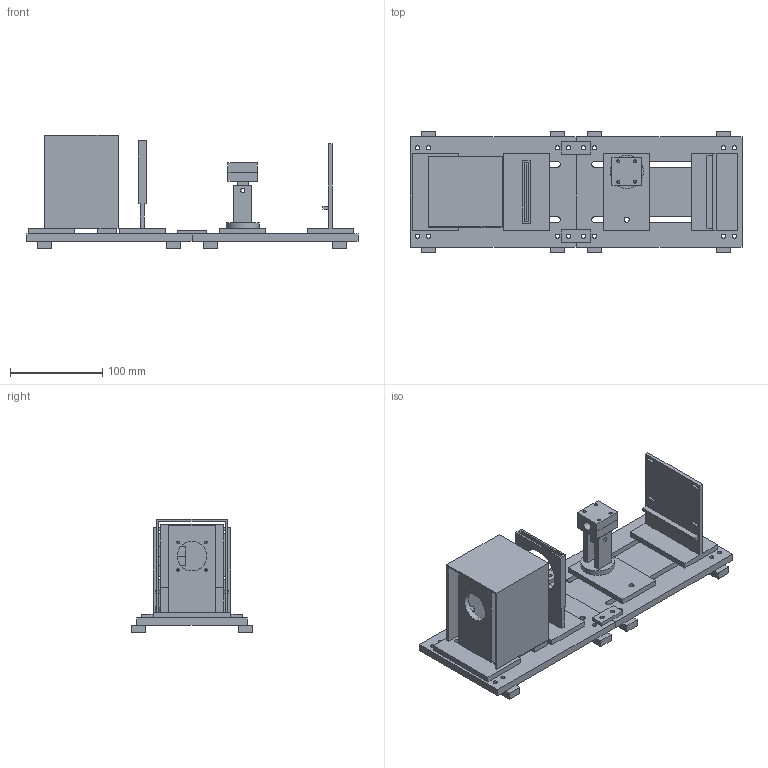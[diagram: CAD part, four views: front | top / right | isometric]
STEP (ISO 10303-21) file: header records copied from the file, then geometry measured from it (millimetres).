
FILE_DESCRIPTION(('Open CASCADE Model'),'2;1');
FILE_NAME('Open CASCADE Shape Model','2026-10-08T14:17:54',('Author'),( 'Open CASCADE'),'Open CASCADE STEP processor 7.9','Open CASCADE 7.9' ,'Unknown');
FILE_SCHEMA(('AUTOMOTIVE_DESIGN { 1 0 10303 214 1 1 1 1 }'));
Length unit declared in the file: millimetre
Products named in the file (16): mini_scos_bench_fixture_v01; rail_front; join_left; camera_bracket; laser_carrier; laser_yaw_clevis; laser_clamp_lower; laser_clamp_upper; filter_holder; filter_frame_back; target_holder; camera_spacer_0; camera_spacer_1; camera_spacer_2; camera_spacer_3; optional_camera_hood
Assembly tree (18 placements, depth 2):
  mini_scos_bench_fixture_v01
    rail_front  x2
    join_left  x2
    camera_bracket
    laser_carrier
    laser_yaw_clevis
    laser_clamp_lower
    laser_clamp_upper
    filter_holder
    filter_frame_back  x2
    target_holder
    camera_spacer_0
    camera_spacer_1
    camera_spacer_2
    camera_spacer_3
    optional_camera_hood
Bounding box: 360 x 132 x 123 mm (x, y, z)
Volume: 601925.5 mm3; surface area: 265336.4 mm2
Topology: 18 solids, 18 shells, 329 faces, 859 edges, 554 vertices
Faces by surface type: plane 250, cylinder 79
Full cylindrical faces by diameter (mm): 2.3 x8, 2.8 x8, 3.4 x8, 4.6 x25, 5.6 x10, 6.4 x4, 32 x1, 36 x1, 48 x2, 52 x2
Entity records: 17532 total; most frequent: CARTESIAN_POINT 3641, DIRECTION 2470, LINE 1610, VECTOR 1610, ORIENTED_EDGE 1348, PCURVE 1348, DEFINITIONAL_REPRESENTATION 1348, EDGE_CURVE 674
